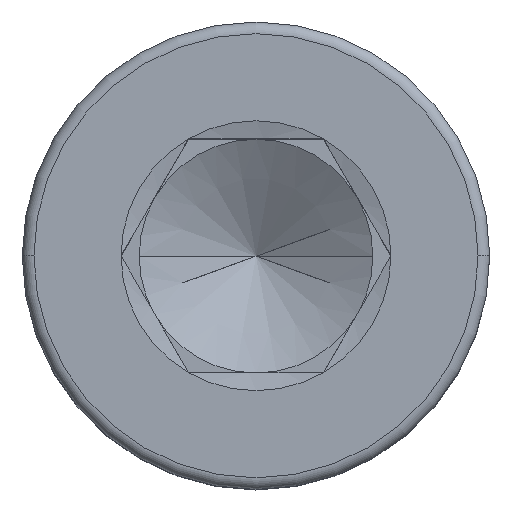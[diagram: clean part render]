
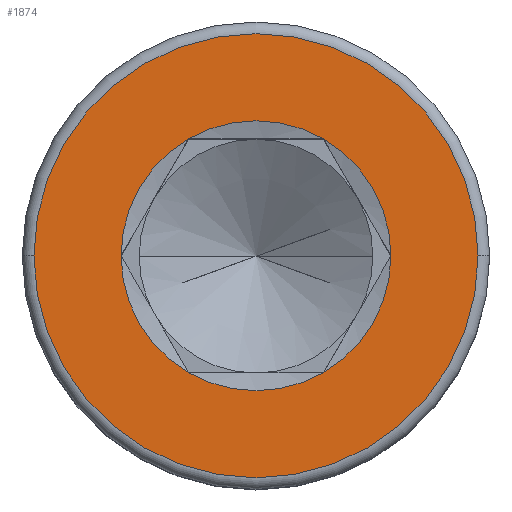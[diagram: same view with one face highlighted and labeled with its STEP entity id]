
A CAD part, top view. The second image highlights one B-rep face of the part: STEP entity #1874.
In plain terms, the highlighted planar face has unit normal (0, 0, 1).
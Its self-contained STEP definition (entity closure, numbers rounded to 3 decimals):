
#40 = DIRECTION ( 'NONE',  ( 0., 0., 1. ) ) ;
#57 = EDGE_CURVE ( 'NONE', #961, #288, #559, .T. ) ;
#59 = EDGE_CURVE ( 'NONE', #775, #1698, #193, .T. ) ;
#109 = EDGE_CURVE ( 'NONE', #1276, #1264, #125, .T. ) ;
#116 = DIRECTION ( 'NONE',  ( 1., 0., 0. ) ) ;
#125 = CIRCLE ( 'NONE', #1680, 2.309 ) ;
#128 = CIRCLE ( 'NONE', #792, 2.309 ) ;
#138 = CARTESIAN_POINT ( 'NONE',  ( 0., 0., 5. ) ) ;
#163 = CIRCLE ( 'NONE', #1872, 2.309 ) ;
#167 = CARTESIAN_POINT ( 'NONE',  ( 0., 0., 5. ) ) ;
#193 = CIRCLE ( 'NONE', #1194, 2.309 ) ;
#198 = AXIS2_PLACEMENT_3D ( 'NONE', #138, #1294, #721 ) ;
#204 = CARTESIAN_POINT ( 'NONE',  ( 0., 0., 5. ) ) ;
#248 = CARTESIAN_POINT ( 'NONE',  ( -3.8, 0., 5. ) ) ;
#256 = CIRCLE ( 'NONE', #1628, 2.309 ) ;
#286 = CARTESIAN_POINT ( 'NONE',  ( -1.155, -2., 5. ) ) ;
#288 = VERTEX_POINT ( 'NONE', #248 ) ;
#291 = DIRECTION ( 'NONE',  ( 0., 0., 1. ) ) ;
#292 = CARTESIAN_POINT ( 'NONE',  ( 0., 0., 5. ) ) ;
#298 = DIRECTION ( 'NONE',  ( 0., 0., 1. ) ) ;
#334 = DIRECTION ( 'NONE',  ( 0., 0., 1. ) ) ;
#360 = CARTESIAN_POINT ( 'NONE',  ( 0., 0., 5. ) ) ;
#384 = DIRECTION ( 'NONE',  ( 1., 0., 0. ) ) ;
#393 = EDGE_LOOP ( 'NONE', ( #1221, #1132, #523, #1126, #802, #1494 ) ) ;
#431 = DIRECTION ( 'NONE',  ( 0., 0., 1. ) ) ;
#458 = EDGE_CURVE ( 'NONE', #1698, #1097, #919, .T. ) ;
#494 = AXIS2_PLACEMENT_3D ( 'NONE', #752, #291, #1055 ) ;
#523 = ORIENTED_EDGE ( 'NONE', *, *, #1811, .F. ) ;
#528 = DIRECTION ( 'NONE',  ( 0., 0., 1. ) ) ;
#559 = CIRCLE ( 'NONE', #494, 3.8 ) ;
#562 = AXIS2_PLACEMENT_3D ( 'NONE', #204, #528, #384 ) ;
#570 = CARTESIAN_POINT ( 'NONE',  ( 0., 0., 5. ) ) ;
#652 = CIRCLE ( 'NONE', #562, 3.8 ) ;
#657 = VERTEX_POINT ( 'NONE', #963 ) ;
#692 = FACE_BOUND ( 'NONE', #393, .T. ) ;
#710 = FACE_OUTER_BOUND ( 'NONE', #840, .T. ) ;
#719 = EDGE_CURVE ( 'NONE', #657, #1276, #128, .T. ) ;
#721 = DIRECTION ( 'NONE',  ( 1., 0., 0. ) ) ;
#752 = CARTESIAN_POINT ( 'NONE',  ( 0., 0., 5. ) ) ;
#754 = CARTESIAN_POINT ( 'NONE',  ( 1.155, 2., 5. ) ) ;
#775 = VERTEX_POINT ( 'NONE', #1878 ) ;
#777 = CARTESIAN_POINT ( 'NONE',  ( 2.309, 0., 5. ) ) ;
#792 = AXIS2_PLACEMENT_3D ( 'NONE', #292, #1158, #1569 ) ;
#797 = ORIENTED_EDGE ( 'NONE', *, *, #57, .T. ) ;
#801 = ORIENTED_EDGE ( 'NONE', *, *, #1718, .T. ) ;
#802 = ORIENTED_EDGE ( 'NONE', *, *, #59, .F. ) ;
#840 = EDGE_LOOP ( 'NONE', ( #797, #801 ) ) ;
#874 = DIRECTION ( 'NONE',  ( 1., 0., 0. ) ) ;
#917 = DIRECTION ( 'NONE',  ( 1., 0., 0. ) ) ;
#919 = CIRCLE ( 'NONE', #1010, 2.309 ) ;
#961 = VERTEX_POINT ( 'NONE', #1702 ) ;
#963 = CARTESIAN_POINT ( 'NONE',  ( 1.155, -2., 5. ) ) ;
#1010 = AXIS2_PLACEMENT_3D ( 'NONE', #1772, #298, #1034 ) ;
#1034 = DIRECTION ( 'NONE',  ( 1., 0., 0. ) ) ;
#1055 = DIRECTION ( 'NONE',  ( 1., 0., 0. ) ) ;
#1097 = VERTEX_POINT ( 'NONE', #286 ) ;
#1126 = ORIENTED_EDGE ( 'NONE', *, *, #458, .F. ) ;
#1132 = ORIENTED_EDGE ( 'NONE', *, *, #719, .F. ) ;
#1158 = DIRECTION ( 'NONE',  ( 0., 0., 1. ) ) ;
#1194 = AXIS2_PLACEMENT_3D ( 'NONE', #167, #40, #874 ) ;
#1221 = ORIENTED_EDGE ( 'NONE', *, *, #109, .F. ) ;
#1264 = VERTEX_POINT ( 'NONE', #754 ) ;
#1276 = VERTEX_POINT ( 'NONE', #777 ) ;
#1294 = DIRECTION ( 'NONE',  ( 0., 0., 1. ) ) ;
#1444 = PLANE ( 'NONE',  #198 ) ;
#1494 = ORIENTED_EDGE ( 'NONE', *, *, #1883, .F. ) ;
#1534 = CARTESIAN_POINT ( 'NONE',  ( -2.309, 0., 5. ) ) ;
#1552 = CARTESIAN_POINT ( 'NONE',  ( 0., 0., 5. ) ) ;
#1566 = DIRECTION ( 'NONE',  ( 0., 0., 1. ) ) ;
#1569 = DIRECTION ( 'NONE',  ( 1., 0., 0. ) ) ;
#1628 = AXIS2_PLACEMENT_3D ( 'NONE', #1552, #1566, #116 ) ;
#1680 = AXIS2_PLACEMENT_3D ( 'NONE', #360, #334, #917 ) ;
#1698 = VERTEX_POINT ( 'NONE', #1534 ) ;
#1702 = CARTESIAN_POINT ( 'NONE',  ( 3.8, 0., 5. ) ) ;
#1718 = EDGE_CURVE ( 'NONE', #288, #961, #652, .T. ) ;
#1772 = CARTESIAN_POINT ( 'NONE',  ( 0., 0., 5. ) ) ;
#1811 = EDGE_CURVE ( 'NONE', #1097, #657, #256, .T. ) ;
#1854 = DIRECTION ( 'NONE',  ( 1., 0., 0. ) ) ;
#1872 = AXIS2_PLACEMENT_3D ( 'NONE', #570, #431, #1854 ) ;
#1874 = ADVANCED_FACE ( 'NONE', ( #710, #692 ), #1444, .T. ) ;
#1878 = CARTESIAN_POINT ( 'NONE',  ( -1.155, 2., 5. ) ) ;
#1883 = EDGE_CURVE ( 'NONE', #1264, #775, #163, .T. ) ;
